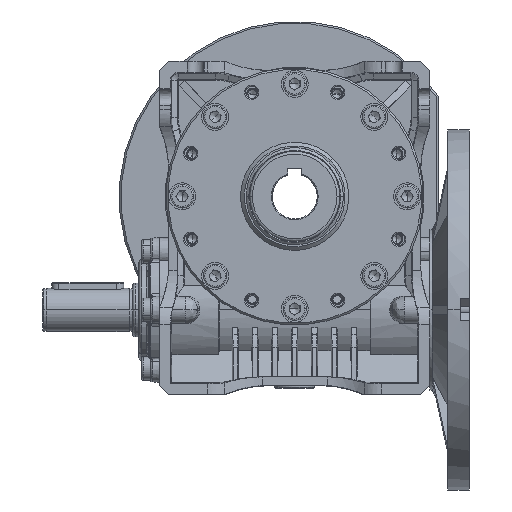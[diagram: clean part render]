
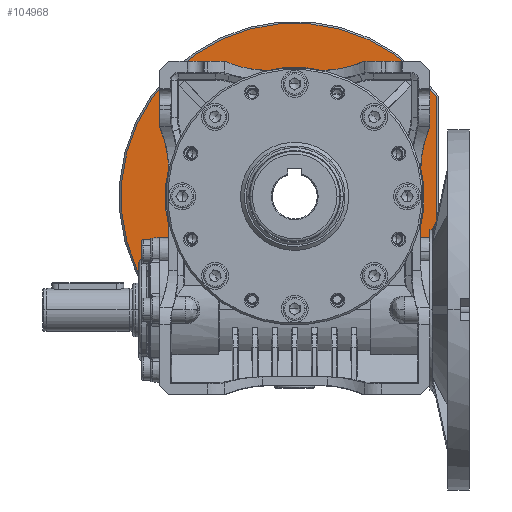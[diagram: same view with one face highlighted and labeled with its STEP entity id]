
A CAD part, top view. The second image highlights one B-rep face of the part: STEP entity #104968.
In plain terms, the highlighted planar face has unit normal (0, 0, 1).
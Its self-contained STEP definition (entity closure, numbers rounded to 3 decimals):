
#848 = VERTEX_POINT ( 'NONE', #84477 ) ;
#1341 = FACE_BOUND ( 'NONE', #9999, .T. ) ;
#1702 = ORIENTED_EDGE ( 'NONE', *, *, #82641, .F. ) ;
#1967 = ORIENTED_EDGE ( 'NONE', *, *, #74569, .T. ) ;
#2565 = EDGE_CURVE ( 'NONE', #119621, #48626, #17113, .T. ) ;
#2633 = DIRECTION ( 'NONE',  ( 0., 0., -1. ) ) ;
#3240 = DIRECTION ( 'NONE',  ( 0., 0., -1. ) ) ;
#4983 = AXIS2_PLACEMENT_3D ( 'NONE', #21144, #13471, #81730 ) ;
#6381 = CIRCLE ( 'NONE', #112280, 5.5 ) ;
#7418 = VECTOR ( 'NONE', #117652, 1000. ) ;
#9999 = EDGE_LOOP ( 'NONE', ( #1967, #15633 ) ) ;
#10716 = DIRECTION ( 'NONE',  ( -0.707, 0.707, 0. ) ) ;
#11556 = CIRCLE ( 'NONE', #121587, 96.5 ) ;
#13399 = DIRECTION ( 'NONE',  ( 0., 0., 1. ) ) ;
#13471 = DIRECTION ( 'NONE',  ( 0., 0., -1. ) ) ;
#14752 = DIRECTION ( 'NONE',  ( 0., 0., -1. ) ) ;
#15633 = ORIENTED_EDGE ( 'NONE', *, *, #2565, .T. ) ;
#16298 = CIRCLE ( 'NONE', #120233, 96.5 ) ;
#17113 = CIRCLE ( 'NONE', #64017, 5.5 ) ;
#17178 = CARTESIAN_POINT ( 'NONE',  ( 0., 0., -81.5 ) ) ;
#17329 = DIRECTION ( 'NONE',  ( 0., 0., -1. ) ) ;
#17677 = LINE ( 'NONE', #99139, #7418 ) ;
#19469 = EDGE_CURVE ( 'NONE', #84368, #77417, #16298, .T. ) ;
#20297 = VERTEX_POINT ( 'NONE', #48716 ) ;
#20434 = CARTESIAN_POINT ( 'NONE',  ( 56.215, -56.215, -81.5 ) ) ;
#21144 = CARTESIAN_POINT ( 'NONE',  ( -60.104, 60.104, -81.5 ) ) ;
#22392 = DIRECTION ( 'NONE',  ( 0., 0., 1. ) ) ;
#22975 = CARTESIAN_POINT ( 'NONE',  ( 60.104, -60.104, -81.5 ) ) ;
#24038 = DIRECTION ( 'NONE',  ( -0.707, 0.707, 0. ) ) ;
#24972 = VERTEX_POINT ( 'NONE', #68421 ) ;
#26900 = CARTESIAN_POINT ( 'NONE',  ( 60.104, 60.104, -81.5 ) ) ;
#27038 = CARTESIAN_POINT ( 'NONE',  ( 63.993, -63.993, -81.5 ) ) ;
#27292 = EDGE_CURVE ( 'NONE', #848, #75231, #63032, .T. ) ;
#29255 = ORIENTED_EDGE ( 'NONE', *, *, #88139, .T. ) ;
#29962 = DIRECTION ( 'NONE',  ( 0., 0., 1. ) ) ;
#30157 = ORIENTED_EDGE ( 'NONE', *, *, #39424, .T. ) ;
#30634 = FACE_BOUND ( 'NONE', #99095, .T. ) ;
#30676 = CARTESIAN_POINT ( 'NONE',  ( -60.104, -60.104, -81.5 ) ) ;
#30984 = CIRCLE ( 'NONE', #35081, 96.5 ) ;
#31273 = DIRECTION ( 'NONE',  ( -0.707, 0.707, 0. ) ) ;
#35081 = AXIS2_PLACEMENT_3D ( 'NONE', #100186, #13399, #31273 ) ;
#35399 = CARTESIAN_POINT ( 'NONE',  ( -68.236, 68.236, -81.5 ) ) ;
#35716 = DIRECTION ( 'NONE',  ( 0., 0., 1. ) ) ;
#36165 = VERTEX_POINT ( 'NONE', #111712 ) ;
#36368 = EDGE_CURVE ( 'NONE', #77417, #74154, #11556, .T. ) ;
#37175 = CARTESIAN_POINT ( 'NONE',  ( 60.104, 60.104, -81.5 ) ) ;
#38431 = CARTESIAN_POINT ( 'NONE',  ( -50.912, 50.912, -81.5 ) ) ;
#38825 = AXIS2_PLACEMENT_3D ( 'NONE', #37175, #56936, #74192 ) ;
#39424 = EDGE_CURVE ( 'NONE', #107097, #24972, #114990, .T. ) ;
#40530 = AXIS2_PLACEMENT_3D ( 'NONE', #86831, #68296, #69546 ) ;
#43915 = CIRCLE ( 'NONE', #107159, 5.5 ) ;
#44716 = AXIS2_PLACEMENT_3D ( 'NONE', #30676, #2633, #108534 ) ;
#47717 = CARTESIAN_POINT ( 'NONE',  ( 63.993, 56.215, -81.5 ) ) ;
#47732 = CARTESIAN_POINT ( 'NONE',  ( 0., 0., -81.5 ) ) ;
#48480 = ORIENTED_EDGE ( 'NONE', *, *, #72553, .T. ) ;
#48521 = FACE_OUTER_BOUND ( 'NONE', #60987, .T. ) ;
#48626 = VERTEX_POINT ( 'NONE', #20434 ) ;
#48716 = CARTESIAN_POINT ( 'NONE',  ( 79., 55.419, -81.5 ) ) ;
#50326 = DIRECTION ( 'NONE',  ( -0.707, 0.707, 0. ) ) ;
#51698 = AXIS2_PLACEMENT_3D ( 'NONE', #102791, #14752, #73433 ) ;
#52451 = CARTESIAN_POINT ( 'NONE',  ( -63.993, -56.215, -81.5 ) ) ;
#54336 = ORIENTED_EDGE ( 'NONE', *, *, #36368, .T. ) ;
#56103 = DIRECTION ( 'NONE',  ( -0.707, 0.707, 0. ) ) ;
#56247 = DIRECTION ( 'NONE',  ( -0.707, 0.707, 0. ) ) ;
#56936 = DIRECTION ( 'NONE',  ( 0., 0., -1. ) ) ;
#57954 = DIRECTION ( 'NONE',  ( 0., 0., 1. ) ) ;
#60072 = ORIENTED_EDGE ( 'NONE', *, *, #122645, .T. ) ;
#60987 = EDGE_LOOP ( 'NONE', ( #74722, #104559, #54336, #74183 ) ) ;
#61253 = DIRECTION ( 'NONE',  ( -0.707, 0.707, 0. ) ) ;
#62050 = ORIENTED_EDGE ( 'NONE', *, *, #27292, .T. ) ;
#63032 = CIRCLE ( 'NONE', #44716, 5.5 ) ;
#64017 = AXIS2_PLACEMENT_3D ( 'NONE', #22975, #3240, #61253 ) ;
#65046 = EDGE_CURVE ( 'NONE', #74154, #20297, #17677, .T. ) ;
#67326 = CIRCLE ( 'NONE', #38825, 5.5 ) ;
#68296 = DIRECTION ( 'NONE',  ( 0., 0., 1. ) ) ;
#68367 = DIRECTION ( 'NONE',  ( -0.707, 0.707, 0. ) ) ;
#68421 = CARTESIAN_POINT ( 'NONE',  ( -56.215, 56.215, -81.5 ) ) ;
#69174 = EDGE_LOOP ( 'NONE', ( #113844, #60072 ) ) ;
#69546 = DIRECTION ( 'NONE',  ( -0.707, 0.707, 0. ) ) ;
#69664 = EDGE_CURVE ( 'NONE', #20297, #84368, #30984, .T. ) ;
#70127 = CARTESIAN_POINT ( 'NONE',  ( 0., 0., -81.5 ) ) ;
#72026 = CIRCLE ( 'NONE', #51698, 5.5 ) ;
#72530 = CARTESIAN_POINT ( 'NONE',  ( -60.104, 60.104, -81.5 ) ) ;
#72553 = EDGE_CURVE ( 'NONE', #75231, #848, #72026, .T. ) ;
#72579 = AXIS2_PLACEMENT_3D ( 'NONE', #95466, #116490, #96724 ) ;
#73433 = DIRECTION ( 'NONE',  ( -0.707, 0.707, 0. ) ) ;
#74154 = VERTEX_POINT ( 'NONE', #116634 ) ;
#74182 = VERTEX_POINT ( 'NONE', #47717 ) ;
#74183 = ORIENTED_EDGE ( 'NONE', *, *, #65046, .T. ) ;
#74192 = DIRECTION ( 'NONE',  ( -0.707, 0.707, 0. ) ) ;
#74569 = EDGE_CURVE ( 'NONE', #48626, #119621, #113300, .T. ) ;
#74722 = ORIENTED_EDGE ( 'NONE', *, *, #69664, .T. ) ;
#75117 = VERTEX_POINT ( 'NONE', #90136 ) ;
#75231 = VERTEX_POINT ( 'NONE', #52451 ) ;
#77417 = VERTEX_POINT ( 'NONE', #119720 ) ;
#77959 = CARTESIAN_POINT ( 'NONE',  ( 0., 0., -81.5 ) ) ;
#78515 = FACE_BOUND ( 'NONE', #69174, .T. ) ;
#79140 = PLANE ( 'NONE',  #40530 ) ;
#81059 = EDGE_LOOP ( 'NONE', ( #30157, #29255 ) ) ;
#81730 = DIRECTION ( 'NONE',  ( -0.707, 0.707, 0. ) ) ;
#82641 = EDGE_CURVE ( 'NONE', #93018, #36165, #119593, .T. ) ;
#82741 = DIRECTION ( 'NONE',  ( 0., 0., -1. ) ) ;
#84368 = VERTEX_POINT ( 'NONE', #35399 ) ;
#84477 = CARTESIAN_POINT ( 'NONE',  ( -56.215, -63.993, -81.5 ) ) ;
#86831 = CARTESIAN_POINT ( 'NONE',  ( 0., 0., -81.5 ) ) ;
#88139 = EDGE_CURVE ( 'NONE', #24972, #107097, #6381, .T. ) ;
#88701 = FACE_BOUND ( 'NONE', #81059, .T. ) ;
#90136 = CARTESIAN_POINT ( 'NONE',  ( 56.215, 63.993, -81.5 ) ) ;
#91184 = CIRCLE ( 'NONE', #123715, 72. ) ;
#92059 = CARTESIAN_POINT ( 'NONE',  ( -63.993, 63.993, -81.5 ) ) ;
#92872 = EDGE_CURVE ( 'NONE', #75117, #74182, #67326, .T. ) ;
#93018 = VERTEX_POINT ( 'NONE', #38431 ) ;
#95466 = CARTESIAN_POINT ( 'NONE',  ( 60.104, -60.104, -81.5 ) ) ;
#96724 = DIRECTION ( 'NONE',  ( -0.707, 0.707, 0. ) ) ;
#96779 = ORIENTED_EDGE ( 'NONE', *, *, #125479, .F. ) ;
#99095 = EDGE_LOOP ( 'NONE', ( #1702, #96779 ) ) ;
#99139 = CARTESIAN_POINT ( 'NONE',  ( 79., 53.965, -81.5 ) ) ;
#100186 = CARTESIAN_POINT ( 'NONE',  ( 0., 0., -81.5 ) ) ;
#100290 = EDGE_LOOP ( 'NONE', ( #48480, #62050 ) ) ;
#102791 = CARTESIAN_POINT ( 'NONE',  ( -60.104, -60.104, -81.5 ) ) ;
#104559 = ORIENTED_EDGE ( 'NONE', *, *, #19469, .T. ) ;
#104968 = ADVANCED_FACE ( 'NONE', ( #48521, #30634, #88701, #78515, #1341, #107865 ), #79140, .T. ) ;
#107097 = VERTEX_POINT ( 'NONE', #92059 ) ;
#107159 = AXIS2_PLACEMENT_3D ( 'NONE', #26900, #17329, #56247 ) ;
#107865 = FACE_BOUND ( 'NONE', #100290, .T. ) ;
#108534 = DIRECTION ( 'NONE',  ( -0.707, 0.707, 0. ) ) ;
#111712 = CARTESIAN_POINT ( 'NONE',  ( 50.912, -50.912, -81.5 ) ) ;
#112280 = AXIS2_PLACEMENT_3D ( 'NONE', #72530, #82741, #24038 ) ;
#113300 = CIRCLE ( 'NONE', #72579, 5.5 ) ;
#113844 = ORIENTED_EDGE ( 'NONE', *, *, #92872, .T. ) ;
#114990 = CIRCLE ( 'NONE', #4983, 5.5 ) ;
#116490 = DIRECTION ( 'NONE',  ( 0., 0., -1. ) ) ;
#116634 = CARTESIAN_POINT ( 'NONE',  ( 79., -55.419, -81.5 ) ) ;
#117652 = DIRECTION ( 'NONE',  ( 0., 1., 0. ) ) ;
#119593 = CIRCLE ( 'NONE', #121592, 72. ) ;
#119621 = VERTEX_POINT ( 'NONE', #27038 ) ;
#119720 = CARTESIAN_POINT ( 'NONE',  ( 68.236, -68.236, -81.5 ) ) ;
#120233 = AXIS2_PLACEMENT_3D ( 'NONE', #17178, #35716, #56103 ) ;
#121587 = AXIS2_PLACEMENT_3D ( 'NONE', #70127, #29962, #50326 ) ;
#121592 = AXIS2_PLACEMENT_3D ( 'NONE', #47732, #57954, #10716 ) ;
#122645 = EDGE_CURVE ( 'NONE', #74182, #75117, #43915, .T. ) ;
#123715 = AXIS2_PLACEMENT_3D ( 'NONE', #77959, #22392, #68367 ) ;
#125479 = EDGE_CURVE ( 'NONE', #36165, #93018, #91184, .T. ) ;
